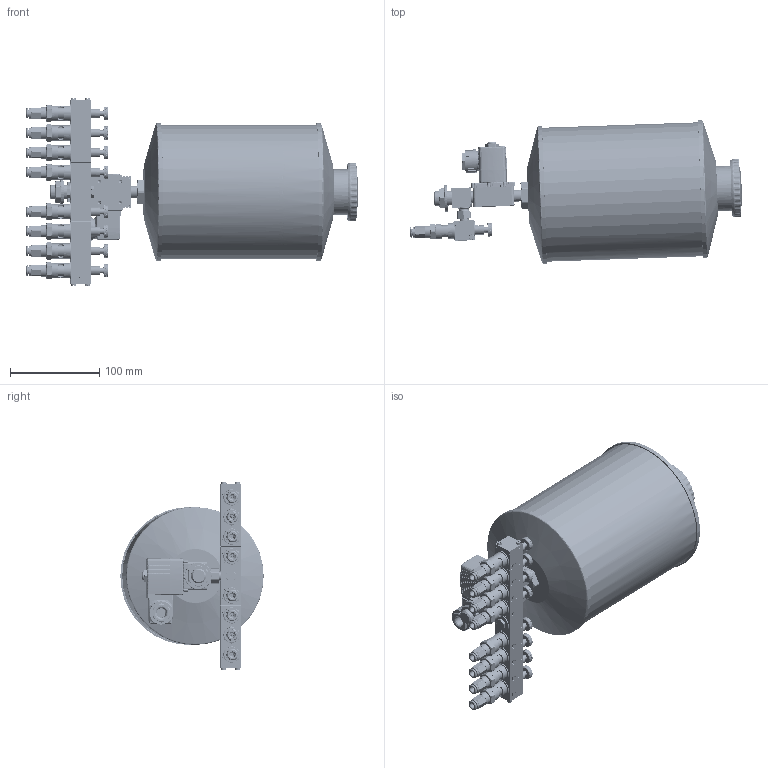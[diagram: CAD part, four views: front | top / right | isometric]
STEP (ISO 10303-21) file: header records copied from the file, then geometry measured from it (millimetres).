
FILE_DESCRIPTION (( 'STEP AP214' ), '1' );
FILE_NAME ('TRO_03_03_08_XXX.STEP', '2025-11-24T15:28:36', ( '' ), ( '' ), 'SwSTEP 2.0', 'SolidWorks 2022', '' );
FILE_SCHEMA (( 'AUTOMOTIVE_DESIGN' ));
Length unit declared in the file: millimetre
Products named in the file (20): TRO_1er_Mit_Verschr.SLDPRT; TRO_Endplatte; TRO_Magnetventil_Stecker; TRO_Behaelter_03; TRO_2er_mittel; TRO_2er_mittel_Mit_Verschr.SLDPRT; TRO_Magnetventil_ohne; TRO_2er; TRO_Stutzen.SLDPRT; TRO_Magnetventil_aktuell; DR6-C_HDX_25.07.16; OR 7.2X1.9_1; OR 7.66X1.78; DR6_NEU; TRO_03_03_08_XXX; 9911 0701 0601_6_1_8_HD; R200107-N1; RIVOLUZIONE_0
Assembly tree (23 placements, depth 4):
  OR 7.2X1.9_1
  TRO_2er_mittel
  DR6_NEU
  TRO_03_03_08_XXX
    TRO_2er_mittel_Mit_Verschr.SLDPRT
      TRO_Stutzen.SLDPRT
        TRO_2er_mittel
      TRO_2er
      9911 0701 0601_6_1_8_HD  x2
        RIVOLUZIONE_0
        OR 7.66X1.78
        DR6-C_HDX_25.07.16
    TRO_1er_Mit_Verschr.SLDPRT  x6
      TRO_2er
      9911 0701 0601_6_1_8_HD
        RIVOLUZIONE_0
        OR 7.66X1.78
        DR6-C_HDX_25.07.16
    TRO_Magnetventil_aktuell
      TRO_Magnetventil_ohne
      TRO_Magnetventil_Stecker
    TRO_Endplatte  x2
    TRO_Behaelter_03
  R200107-N1
Bounding box: 371.57 x 160.4 x 210.8 mm (x, y, z)
Volume: 635047.3 mm3; surface area: 431264.2 mm2
Topology: 49 solids, 49 shells, 9213 faces, 23757 edges, 14812 vertices
Faces by surface type: bspline 3654, plane 3138, cylinder 1624, cone 794, torus 3
Full cylindrical faces by diameter (mm): 1.5 x8, 2 x8, 3.5 x12, 3.8 x8, 4.2 x8, 4.5 x8, 5.5 x4, 5.9 x16, 6 x2, 6.2 x8, 6.25 x1, 6.3 x8, 6.75 x1, 7 x9, 7.2 x8, 7.4 x1, 8 x2, 8.3 x8, 8.4 x1, 8.5 x1, 8.6 x11, 8.8 x1, 9 x9, 9.2 x1, 9.5 x8, 9.728 x8, 9.8 x1, 9.9 x8, 10 x20, 10.1 x1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
Entity records: 313313 total; most frequent: CARTESIAN_POINT 170841, ORIENTED_EDGE 32198, DIRECTION 18644, EDGE_CURVE 16099, VERTEX_POINT 10212, B_SPLINE_CURVE_WITH_KNOTS 7533, AXIS2_PLACEMENT_3D 7010, EDGE_LOOP 6977
